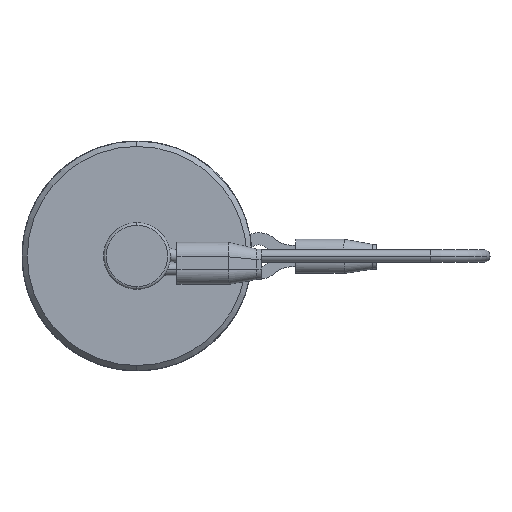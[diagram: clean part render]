
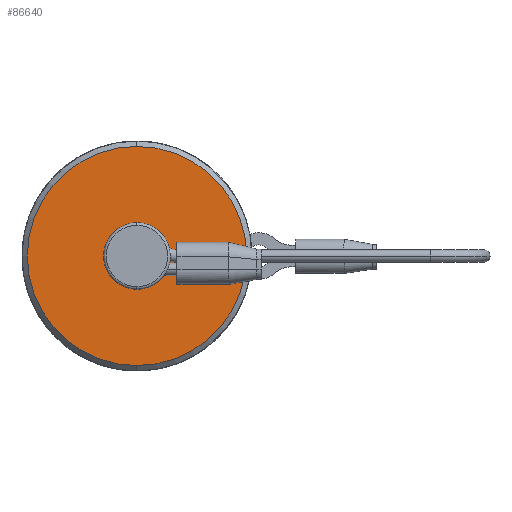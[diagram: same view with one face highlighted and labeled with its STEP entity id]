
A CAD part, left-side view. The second image highlights one B-rep face of the part: STEP entity #86640.
In plain terms, the highlighted planar face has unit normal (-1, 0, 0).
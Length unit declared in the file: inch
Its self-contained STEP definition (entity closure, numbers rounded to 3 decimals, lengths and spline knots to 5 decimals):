
#148 = DIRECTION ( 'NONE',  ( -1., 0., 0. ) ) ;
#10473 = ORIENTED_EDGE ( 'NONE', *, *, #32310, .T. ) ;
#11558 = CIRCLE ( 'NONE', #18018, 0.25 ) ;
#11777 = ORIENTED_EDGE ( 'NONE', *, *, #23163, .F. ) ;
#15745 = VERTEX_POINT ( 'NONE', #83767 ) ;
#16765 = CIRCLE ( 'NONE', #49263, 0.25 ) ;
#18018 = AXIS2_PLACEMENT_3D ( 'NONE', #22878, #39609, #83899 ) ;
#22878 = CARTESIAN_POINT ( 'NONE',  ( 0.25, 0., 0. ) ) ;
#23163 = EDGE_CURVE ( 'NONE', #15745, #46701, #40783, .T. ) ;
#24039 = PLANE ( 'NONE',  #94125 ) ;
#32310 = EDGE_CURVE ( 'NONE', #40716, #49485, #16765, .T. ) ;
#35949 = AXIS2_PLACEMENT_3D ( 'NONE', #73657, #57358, #49756 ) ;
#39609 = DIRECTION ( 'NONE',  ( 1., 0., 0. ) ) ;
#40391 = EDGE_LOOP ( 'NONE', ( #70664, #10473 ) ) ;
#40716 = VERTEX_POINT ( 'NONE', #76239 ) ;
#40783 = CIRCLE ( 'NONE', #35949, 0.8215 ) ;
#42558 = DIRECTION ( 'NONE',  ( 0., 0., -1. ) ) ;
#43238 = DIRECTION ( 'NONE',  ( 0., 0., -1. ) ) ;
#43403 = EDGE_CURVE ( 'NONE', #49485, #40716, #11558, .T. ) ;
#46701 = VERTEX_POINT ( 'NONE', #97843 ) ;
#46883 = DIRECTION ( 'NONE',  ( 0., 0., 1. ) ) ;
#47229 = AXIS2_PLACEMENT_3D ( 'NONE', #64953, #95955, #42558 ) ;
#49263 = AXIS2_PLACEMENT_3D ( 'NONE', #50385, #74283, #43238 ) ;
#49485 = VERTEX_POINT ( 'NONE', #59944 ) ;
#49756 = DIRECTION ( 'NONE',  ( 0., 0., -1. ) ) ;
#50385 = CARTESIAN_POINT ( 'NONE',  ( 0.25, 0., 0. ) ) ;
#52578 = EDGE_LOOP ( 'NONE', ( #11777, #62790 ) ) ;
#54031 = FACE_OUTER_BOUND ( 'NONE', #52578, .T. ) ;
#57358 = DIRECTION ( 'NONE',  ( 1., 0., 0. ) ) ;
#59944 = CARTESIAN_POINT ( 'NONE',  ( 0.25, 0., -0.25 ) ) ;
#62790 = ORIENTED_EDGE ( 'NONE', *, *, #88431, .F. ) ;
#63422 = CIRCLE ( 'NONE', #47229, 0.8215 ) ;
#64953 = CARTESIAN_POINT ( 'NONE',  ( 0.25, 0., 0. ) ) ;
#68302 = FACE_BOUND ( 'NONE', #40391, .T. ) ;
#70664 = ORIENTED_EDGE ( 'NONE', *, *, #43403, .T. ) ;
#73657 = CARTESIAN_POINT ( 'NONE',  ( 0.25, 0., 0. ) ) ;
#74283 = DIRECTION ( 'NONE',  ( 1., 0., 0. ) ) ;
#76239 = CARTESIAN_POINT ( 'NONE',  ( 0.25, 0., 0.25 ) ) ;
#83767 = CARTESIAN_POINT ( 'NONE',  ( 0.25, 0., -0.8215 ) ) ;
#83899 = DIRECTION ( 'NONE',  ( 0., 0., -1. ) ) ;
#85047 = CARTESIAN_POINT ( 'NONE',  ( 0.25, 0.8215, 0. ) ) ;
#86640 = ADVANCED_FACE ( 'NONE', ( #68302, #54031 ), #24039, .T. ) ;
#88431 = EDGE_CURVE ( 'NONE', #46701, #15745, #63422, .T. ) ;
#94125 = AXIS2_PLACEMENT_3D ( 'NONE', #85047, #148, #46883 ) ;
#95955 = DIRECTION ( 'NONE',  ( 1., 0., 0. ) ) ;
#97843 = CARTESIAN_POINT ( 'NONE',  ( 0.25, 0., 0.8215 ) ) ;
